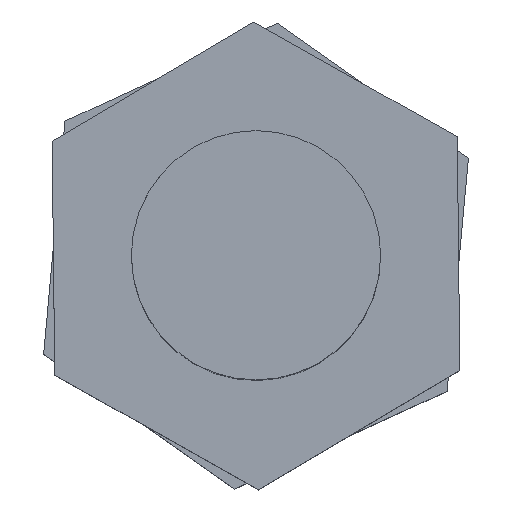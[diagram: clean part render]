
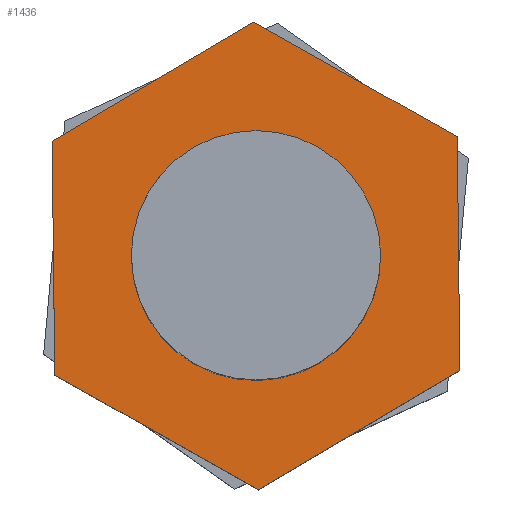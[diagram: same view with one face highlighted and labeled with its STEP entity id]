
A CAD part, top view. The second image highlights one B-rep face of the part: STEP entity #1436.
In plain terms, the highlighted planar face has unit normal (0, 0, 1).
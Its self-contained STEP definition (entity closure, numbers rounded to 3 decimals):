
#24 = VECTOR ( 'NONE', #1091, 1000. ) ;
#31 = ORIENTED_EDGE ( 'NONE', *, *, #779, .F. ) ;
#71 = LINE ( 'NONE', #653, #914 ) ;
#112 = FACE_BOUND ( 'NONE', #1390, .T. ) ;
#123 = ORIENTED_EDGE ( 'NONE', *, *, #1244, .T. ) ;
#126 = ORIENTED_EDGE ( 'NONE', *, *, #747, .T. ) ;
#145 = ORIENTED_EDGE ( 'NONE', *, *, #477, .T. ) ;
#161 = AXIS2_PLACEMENT_3D ( 'NONE', #901, #220, #1362 ) ;
#202 = CARTESIAN_POINT ( 'NONE',  ( -6.5, 3.753, 0. ) ) ;
#220 = DIRECTION ( 'NONE',  ( 0., 0., 1. ) ) ;
#225 = VERTEX_POINT ( 'NONE', #622 ) ;
#255 = DIRECTION ( 'NONE',  ( 0., 0., 1. ) ) ;
#311 = PLANE ( 'NONE',  #161 ) ;
#314 = EDGE_LOOP ( 'NONE', ( #703, #123, #565, #126, #335, #145 ) ) ;
#318 = DIRECTION ( 'NONE',  ( 1., 0., 0. ) ) ;
#335 = ORIENTED_EDGE ( 'NONE', *, *, #794, .T. ) ;
#352 = AXIS2_PLACEMENT_3D ( 'NONE', #485, #255, #723 ) ;
#373 = DIRECTION ( 'NONE',  ( -0.866, 0.5, 0. ) ) ;
#419 = VECTOR ( 'NONE', #373, 1000. ) ;
#439 = VERTEX_POINT ( 'NONE', #202 ) ;
#463 = DIRECTION ( 'NONE',  ( 0., 0., 1. ) ) ;
#472 = CARTESIAN_POINT ( 'NONE',  ( 6.5, 3.753, 0. ) ) ;
#477 = EDGE_CURVE ( 'NONE', #479, #1165, #71, .T. ) ;
#479 = VERTEX_POINT ( 'NONE', #1121 ) ;
#485 = CARTESIAN_POINT ( 'NONE',  ( 0., 0., 0. ) ) ;
#490 = VERTEX_POINT ( 'NONE', #1357 ) ;
#565 = ORIENTED_EDGE ( 'NONE', *, *, #1124, .T. ) ;
#577 = LINE ( 'NONE', #1254, #587 ) ;
#587 = VECTOR ( 'NONE', #887, 1000. ) ;
#603 = LINE ( 'NONE', #1418, #1150 ) ;
#606 = DIRECTION ( 'NONE',  ( 0.866, 0.5, 0. ) ) ;
#622 = CARTESIAN_POINT ( 'NONE',  ( -4., 0., 0. ) ) ;
#636 = ORIENTED_EDGE ( 'NONE', *, *, #1450, .F. ) ;
#653 = CARTESIAN_POINT ( 'NONE',  ( 6.5, -3.753, 0. ) ) ;
#658 = EDGE_CURVE ( 'NONE', #1165, #490, #964, .T. ) ;
#703 = ORIENTED_EDGE ( 'NONE', *, *, #658, .T. ) ;
#723 = DIRECTION ( 'NONE',  ( 1., 0., 0. ) ) ;
#747 = EDGE_CURVE ( 'NONE', #1386, #949, #850, .T. ) ;
#751 = CIRCLE ( 'NONE', #1353, 4. ) ;
#756 = LINE ( 'NONE', #1226, #974 ) ;
#779 = EDGE_CURVE ( 'NONE', #1483, #225, #1339, .T. ) ;
#782 = CARTESIAN_POINT ( 'NONE',  ( 0., -7.506, 0. ) ) ;
#794 = EDGE_CURVE ( 'NONE', #949, #479, #603, .T. ) ;
#795 = FACE_OUTER_BOUND ( 'NONE', #314, .T. ) ;
#850 = LINE ( 'NONE', #958, #24 ) ;
#887 = DIRECTION ( 'NONE',  ( 0., -1., 0. ) ) ;
#901 = CARTESIAN_POINT ( 'NONE',  ( 0., 0., 0. ) ) ;
#914 = VECTOR ( 'NONE', #1467, 1000. ) ;
#920 = CARTESIAN_POINT ( 'NONE',  ( 4., 0., 0. ) ) ;
#949 = VERTEX_POINT ( 'NONE', #782 ) ;
#958 = CARTESIAN_POINT ( 'NONE',  ( -6.5, -3.753, 0. ) ) ;
#964 = LINE ( 'NONE', #970, #419 ) ;
#970 = CARTESIAN_POINT ( 'NONE',  ( 6.5, 3.753, 0. ) ) ;
#974 = VECTOR ( 'NONE', #1210, 1000. ) ;
#1005 = CARTESIAN_POINT ( 'NONE',  ( 0., 0., 0. ) ) ;
#1091 = DIRECTION ( 'NONE',  ( 0.866, -0.5, 0. ) ) ;
#1121 = CARTESIAN_POINT ( 'NONE',  ( 6.5, -3.753, 0. ) ) ;
#1124 = EDGE_CURVE ( 'NONE', #439, #1386, #577, .T. ) ;
#1150 = VECTOR ( 'NONE', #606, 1000. ) ;
#1165 = VERTEX_POINT ( 'NONE', #472 ) ;
#1210 = DIRECTION ( 'NONE',  ( -0.866, -0.5, 0. ) ) ;
#1226 = CARTESIAN_POINT ( 'NONE',  ( 0., 7.506, 0. ) ) ;
#1244 = EDGE_CURVE ( 'NONE', #490, #439, #756, .T. ) ;
#1254 = CARTESIAN_POINT ( 'NONE',  ( -6.5, 3.753, 0. ) ) ;
#1339 = CIRCLE ( 'NONE', #352, 4. ) ;
#1353 = AXIS2_PLACEMENT_3D ( 'NONE', #1005, #463, #318 ) ;
#1357 = CARTESIAN_POINT ( 'NONE',  ( 0., 7.506, 0. ) ) ;
#1362 = DIRECTION ( 'NONE',  ( 1., 0., 0. ) ) ;
#1381 = CARTESIAN_POINT ( 'NONE',  ( -6.5, -3.753, 0. ) ) ;
#1386 = VERTEX_POINT ( 'NONE', #1381 ) ;
#1390 = EDGE_LOOP ( 'NONE', ( #31, #636 ) ) ;
#1418 = CARTESIAN_POINT ( 'NONE',  ( 0., -7.506, 0. ) ) ;
#1436 = ADVANCED_FACE ( 'NONE', ( #112, #795 ), #311, .T. ) ;
#1450 = EDGE_CURVE ( 'NONE', #225, #1483, #751, .T. ) ;
#1467 = DIRECTION ( 'NONE',  ( 0., 1., 0. ) ) ;
#1483 = VERTEX_POINT ( 'NONE', #920 ) ;
